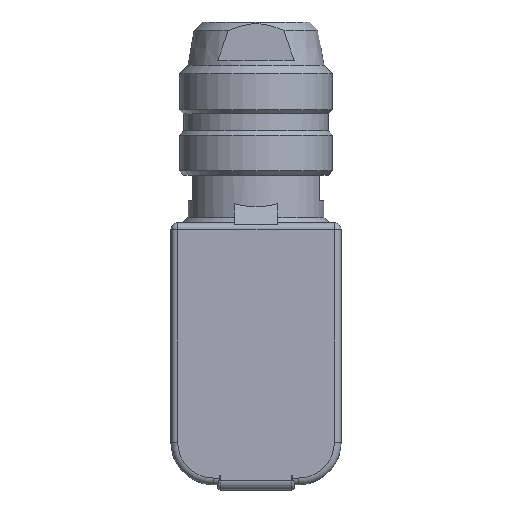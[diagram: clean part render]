
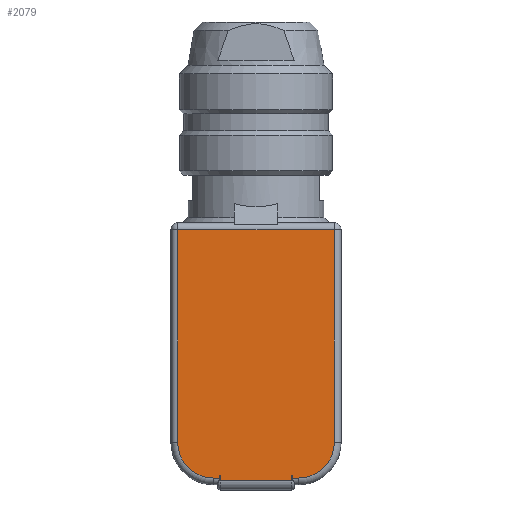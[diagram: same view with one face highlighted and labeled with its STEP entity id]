
A CAD part, left-side view. The second image highlights one B-rep face of the part: STEP entity #2079.
In plain terms, the highlighted planar face has unit normal (-1, 0, 0).
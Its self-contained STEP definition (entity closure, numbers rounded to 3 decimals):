
#735=CIRCLE('',#14823,4.2);
#741=CIRCLE('',#14832,4.2);
#2079=ADVANCED_FACE('',(#3372),#2915,.T.);
#2915=PLANE('',#14850);
#3372=FACE_OUTER_BOUND('',#4265,.T.);
#4265=EDGE_LOOP('',(#5655,#5656,#5657,#5658,#5659,#5660,#5661,#5662,#5663,
#5664,#5665,#5666,#5667,#5668));
#5655=ORIENTED_EDGE('',*,*,#11031,.F.);
#5656=ORIENTED_EDGE('',*,*,#11013,.T.);
#5657=ORIENTED_EDGE('',*,*,#11015,.T.);
#5658=ORIENTED_EDGE('',*,*,#11043,.T.);
#5659=ORIENTED_EDGE('',*,*,#11044,.T.);
#5660=ORIENTED_EDGE('',*,*,#11045,.F.);
#5661=ORIENTED_EDGE('',*,*,#10796,.T.);
#5662=ORIENTED_EDGE('',*,*,#10811,.T.);
#5663=ORIENTED_EDGE('',*,*,#11046,.T.);
#5664=ORIENTED_EDGE('',*,*,#11047,.F.);
#5665=ORIENTED_EDGE('',*,*,#11048,.F.);
#5666=ORIENTED_EDGE('',*,*,#11049,.T.);
#5667=ORIENTED_EDGE('',*,*,#11007,.T.);
#5668=ORIENTED_EDGE('',*,*,#11004,.T.);
#9464=VERTEX_POINT('',#20445);
#9468=VERTEX_POINT('',#20467);
#9478=VERTEX_POINT('',#20513);
#9602=VERTEX_POINT('',#21173);
#9605=VERTEX_POINT('',#21180);
#9607=VERTEX_POINT('',#21186);
#9611=VERTEX_POINT('',#21195);
#9613=VERTEX_POINT('',#21201);
#9615=VERTEX_POINT('',#21206);
#9620=VERTEX_POINT('',#21254);
#9621=VERTEX_POINT('',#21256);
#9622=VERTEX_POINT('',#21259);
#9623=VERTEX_POINT('',#21261);
#9624=VERTEX_POINT('',#21263);
#10796=EDGE_CURVE('',#9468,#9464,#12939,.T.);
#10811=EDGE_CURVE('',#9464,#9478,#12945,.T.);
#11004=EDGE_CURVE('',#9605,#9602,#13037,.T.);
#11007=EDGE_CURVE('',#9607,#9605,#735,.T.);
#11013=EDGE_CURVE('',#9611,#9613,#13039,.T.);
#11015=EDGE_CURVE('',#9613,#9615,#741,.T.);
#11031=EDGE_CURVE('',#9611,#9602,#13054,.T.);
#11043=EDGE_CURVE('',#9615,#9620,#13064,.T.);
#11044=EDGE_CURVE('',#9620,#9621,#13065,.T.);
#11045=EDGE_CURVE('',#9468,#9621,#13066,.T.);
#11046=EDGE_CURVE('',#9478,#9622,#13067,.T.);
#11047=EDGE_CURVE('',#9623,#9622,#13068,.T.);
#11048=EDGE_CURVE('',#9624,#9623,#13069,.T.);
#11049=EDGE_CURVE('',#9624,#9607,#13070,.T.);
#12939=LINE('',#20466,#13788);
#12945=LINE('',#20514,#13794);
#13037=LINE('',#21183,#13886);
#13039=LINE('',#21202,#13888);
#13054=LINE('',#21228,#13903);
#13064=LINE('',#21253,#13913);
#13065=LINE('',#21255,#13914);
#13066=LINE('',#21257,#13915);
#13067=LINE('',#21258,#13916);
#13068=LINE('',#21260,#13917);
#13069=LINE('',#21262,#13918);
#13070=LINE('',#21264,#13919);
#13788=VECTOR('',#16285,1.);
#13794=VECTOR('',#16313,1.);
#13886=VECTOR('',#16733,1.);
#13888=VECTOR('',#16755,1.);
#13903=VECTOR('',#16788,1.);
#13913=VECTOR('',#16820,1.);
#13914=VECTOR('',#16821,1.);
#13915=VECTOR('',#16822,1.);
#13916=VECTOR('',#16823,1.);
#13917=VECTOR('',#16824,1.);
#13918=VECTOR('',#16825,1.);
#13919=VECTOR('',#16826,1.);
#14823=AXIS2_PLACEMENT_3D('',#21189,#16740,#16741);
#14832=AXIS2_PLACEMENT_3D('',#21207,#16760,#16761);
#14850=AXIS2_PLACEMENT_3D('',#21265,#16827,#16828);
#16285=DIRECTION('',(0.,0.,-1.));
#16313=DIRECTION('',(0.,-1.,0.));
#16733=DIRECTION('',(0.,0.,1.));
#16740=DIRECTION('',(-1.,0.,0.));
#16741=DIRECTION('',(0.,0.,-1.));
#16755=DIRECTION('',(0.,0.,-1.));
#16760=DIRECTION('',(-1.,0.,0.));
#16761=DIRECTION('',(0.,0.,-1.));
#16788=DIRECTION('',(0.,-1.,0.));
#16820=DIRECTION('',(0.,-1.,0.));
#16821=DIRECTION('',(0.,0.,1.));
#16822=DIRECTION('',(0.,1.,0.));
#16823=DIRECTION('',(0.,0.,1.));
#16824=DIRECTION('',(0.,1.,0.));
#16825=DIRECTION('',(0.,0.,1.));
#16826=DIRECTION('',(0.,-1.,0.));
#16827=DIRECTION('',(-1.,0.,0.));
#16828=DIRECTION('',(0.,0.,1.));
#20445=CARTESIAN_POINT('',(-41.8,4.2,-9.5));
#20466=CARTESIAN_POINT('',(-41.8,4.2,-8.9));
#20467=CARTESIAN_POINT('',(-41.8,4.2,-8.9));
#20513=CARTESIAN_POINT('',(-41.8,-4.2,-9.5));
#20514=CARTESIAN_POINT('',(-41.8,-4.5,-9.5));
#21173=CARTESIAN_POINT('',(-41.8,-9.2,20.));
#21180=CARTESIAN_POINT('',(-41.8,-9.2,-5.));
#21183=CARTESIAN_POINT('',(-41.8,-9.2,10.4));
#21186=CARTESIAN_POINT('',(-41.8,-5.,-9.2));
#21189=CARTESIAN_POINT('',(-41.8,-5.,-5.));
#21195=CARTESIAN_POINT('',(-41.8,9.2,20.));
#21201=CARTESIAN_POINT('',(-41.8,9.2,-5.));
#21202=CARTESIAN_POINT('',(-41.8,9.2,10.4));
#21206=CARTESIAN_POINT('',(-41.8,5.,-9.2));
#21207=CARTESIAN_POINT('',(-41.8,5.,-5.));
#21228=CARTESIAN_POINT('',(-41.8,2.55,20.));
#21253=CARTESIAN_POINT('',(-41.8,-5.,-9.2));
#21254=CARTESIAN_POINT('',(-41.8,4.25,-9.2));
#21255=CARTESIAN_POINT('',(-41.8,4.25,-10.));
#21256=CARTESIAN_POINT('',(-41.8,4.25,-8.9));
#21257=CARTESIAN_POINT('',(-41.8,-4.6,-8.9));
#21258=CARTESIAN_POINT('',(-41.8,-4.2,-8.9));
#21259=CARTESIAN_POINT('',(-41.8,-4.2,-8.9));
#21260=CARTESIAN_POINT('',(-41.8,-4.6,-8.9));
#21261=CARTESIAN_POINT('',(-41.8,-4.25,-8.9));
#21262=CARTESIAN_POINT('',(-41.8,-4.25,-5.));
#21263=CARTESIAN_POINT('',(-41.8,-4.25,-9.2));
#21264=CARTESIAN_POINT('',(-41.8,-5.,-9.2));
#21265=CARTESIAN_POINT('',(-41.8,5.,-5.));
